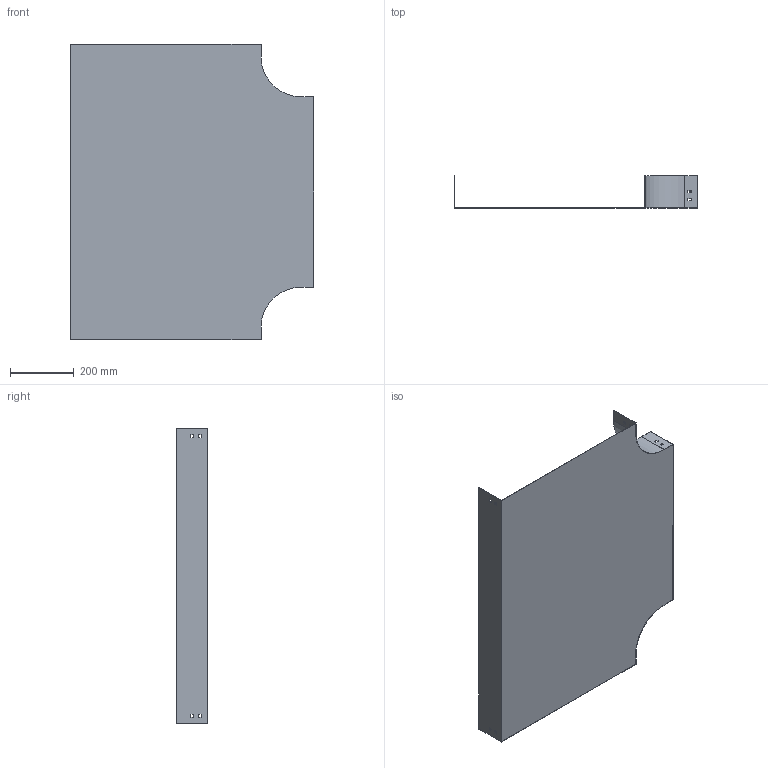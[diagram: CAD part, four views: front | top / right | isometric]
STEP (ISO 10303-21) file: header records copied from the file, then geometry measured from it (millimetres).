
FILE_DESCRIPTION (( 'STEP AP214' ), '1' );
FILE_NAME ('PT_601.step', '2025-07-16T09:24:23', ( '' ), ( '' ), 'SwSTEP 2.0', 'SolidWorks 2023', '' );
FILE_SCHEMA (( 'AUTOMOTIVE_DESIGN' ));
Length unit declared in the file: millimetre
Products named in the file (1): PT_601
Bounding box: 765 x 100 x 930 mm (x, y, z)
Volume: 1213716.4 mm3; surface area: 1624711.1 mm2
Topology: 1 solids, 1 shells, 70 faces, 204 edges, 136 vertices
Faces by surface type: plane 66, cylinder 4
Entity records: 2347 total; most frequent: CARTESIAN_POINT 411, ORIENTED_EDGE 408, DIRECTION 354, EDGE_CURVE 204, LINE 196, VECTOR 196, VERTEX_POINT 136, EDGE_LOOP 94
